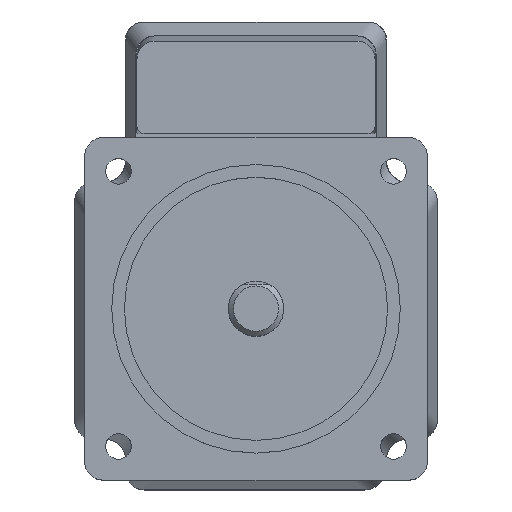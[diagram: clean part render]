
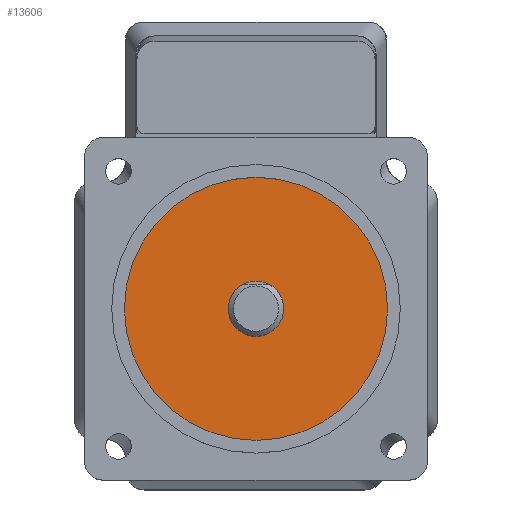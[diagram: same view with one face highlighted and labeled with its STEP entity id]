
A CAD part, top view. The second image highlights one B-rep face of the part: STEP entity #13606.
In plain terms, the highlighted planar face has unit normal (0, 0, 1) as drawn and (1, 0, 0) by its records, which use the part's own axes.
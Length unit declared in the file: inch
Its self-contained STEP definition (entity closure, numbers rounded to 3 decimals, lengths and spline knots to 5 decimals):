
#5290=ORIENTED_EDGE('',*,*,#8155,.F.);
#5291=ORIENTED_EDGE('',*,*,#8663,.F.);
#8155=EDGE_CURVE('',#9881,#9881,#10683,.T.);
#8663=EDGE_CURVE('',#10267,#10267,#10808,.F.);
#9881=VERTEX_POINT('',#20543);
#10267=VERTEX_POINT('',#21861);
#10683=CIRCLE('',#14345,0.2756);
#10808=CIRCLE('',#14596,1.31);
#11330=EDGE_LOOP('',(#5290));
#11331=EDGE_LOOP('',(#5291));
#12216=FACE_BOUND('',#11330,.T.);
#12217=FACE_BOUND('',#11331,.T.);
#12929=PLANE('',#14600);
#13606=ADVANCED_FACE('',(#12216,#12217),#12929,.T.);
#14345=AXIS2_PLACEMENT_3D('',#20542,#16490,#16491);
#14596=AXIS2_PLACEMENT_3D('',#21860,#17337,#17338);
#14600=AXIS2_PLACEMENT_3D('',#21866,#17345,#17346);
#16490=DIRECTION('',(1.,0.,0.));
#16491=DIRECTION('',(0.,0.,-1.));
#17337=DIRECTION('',(1.,0.,0.));
#17338=DIRECTION('',(0.,0.,-1.));
#17345=DIRECTION('',(1.,0.,0.));
#17346=DIRECTION('',(0.,0.,-1.));
#20542=CARTESIAN_POINT('',(5.1,0.,0.));
#20543=CARTESIAN_POINT('',(5.1,0.,-0.2756));
#21860=CARTESIAN_POINT('',(5.1,0.,0.));
#21861=CARTESIAN_POINT('',(5.1,0.,-1.31));
#21866=CARTESIAN_POINT('',(5.1,-1.015,1.525));
